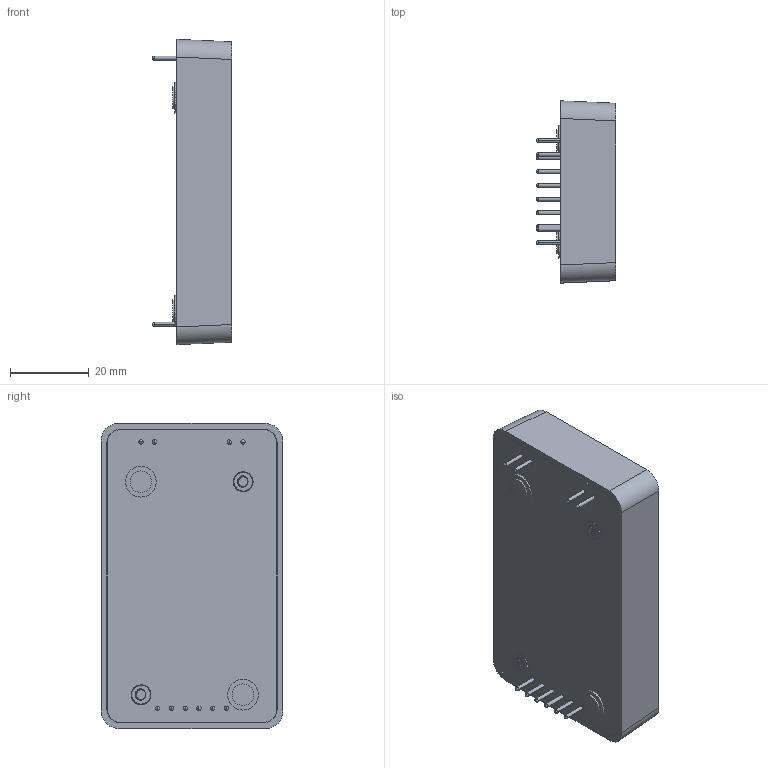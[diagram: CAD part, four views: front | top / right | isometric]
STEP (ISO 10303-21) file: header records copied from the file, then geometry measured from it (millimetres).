
FILE_DESCRIPTION((''),'2;1');
FILE_NAME('ADMX3652_FRONT_COVER','2023-08-22T',('ChenB176'),(''),'PRO/ENGINEER BY PARAMETRIC TECHNOLOGY CORPORATION, 2016240','PRO/ENGINEER BY PARAMETRIC TECHNOLOGY CORPORATION, 2016240','');
FILE_SCHEMA(('CONFIG_CONTROL_DESIGN'));
Products named in the file (1): ADMX3652_FRONT_COVER
Bounding box: 20.2 x 46.26 x 77.65 mm (x, y, z)
Volume: 14949.3 mm3; surface area: 21967 mm2
Topology: 1 solids, 154 shells, 2428 faces, 9424 edges, 7144 vertices
Faces by surface type: plane 1588, cylinder 784, cone 28, sphere 20, extrusion 4, bspline 4
Entity records: 101023 total; most frequent: CARTESIAN_POINT 21661, ORIENTED_EDGE 16066, DIRECTION 15695, EDGE_CURVE 9384, VECTOR 7687, LINE 7683, VERTEX_POINT 7144, AXIS2_PLACEMENT_3D 4004
